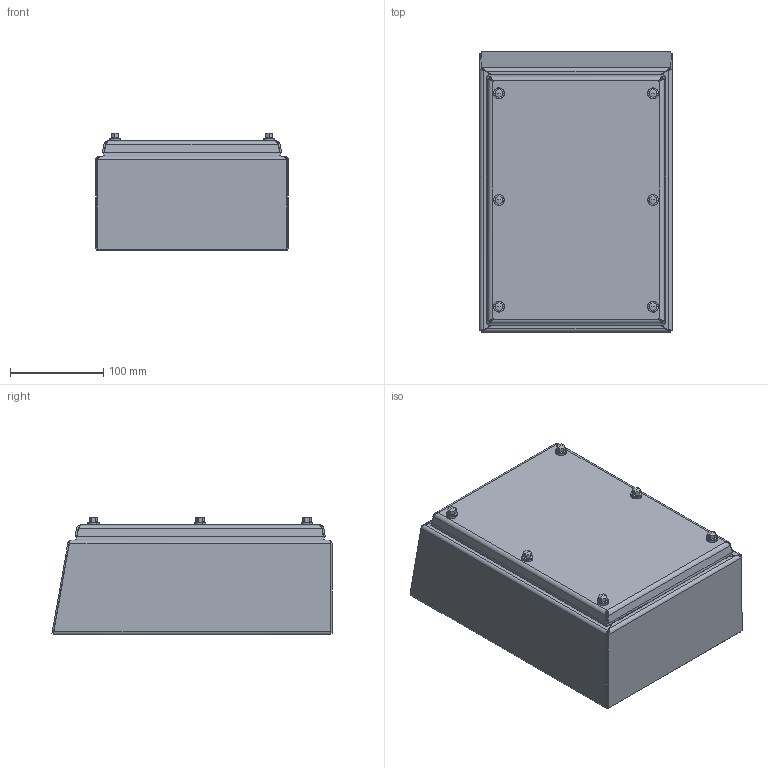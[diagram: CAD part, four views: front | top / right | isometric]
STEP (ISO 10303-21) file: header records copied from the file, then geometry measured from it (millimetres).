
FILE_DESCRIPTION (( 'STEP AP203' ), '1' );
FILE_NAME ('hsds110804ss.STEP', '2019-08-08T13:29:12', ( '' ), ( '' ), 'SwSTEP 2.0', 'SolidWorks 2016', '' );
FILE_SCHEMA (( 'CONFIG_CONTROL_DESIGN' ));
Length unit declared in the file: inch
Products named in the file (17): 89129095_Rivnut version; 89144636_96194A101; 58110002; 89154854; 54106002; 89157132; 89129078_Rivnuts; 89157251; 89129112; 89129100; 99417344; hsds110804ss; 89129106; 89129084_No flange; 89129118; 89129090_Rivnut version; 89124339
Assembly tree (41 placements, depth 4):
  hsds110804ss
    89129078_Rivnuts
      89129084_No flange
      89129090_Rivnut version
      89129095_Rivnut version
      58110002  x6
      54106002  x4
    89129100
      89129106
        89129112
        99417344  x2
      89129118
      89124339
      89144636_96194A101  x2
      89154854  x6
      89157132  x6
      89157251  x6
Bounding box: 206.38 x 300.14 x 126.41 mm (x, y, z)
Volume: 421240.3 mm3; surface area: 566025 mm2
Topology: 38 solids, 38 shells, 1067 faces, 2549 edges, 1600 vertices
Faces by surface type: plane 528, cylinder 316, cone 96, bspline 51, torus 40, sphere 36
Entity records: 19304 total; most frequent: CARTESIAN_POINT 5059, ORIENTED_EDGE 2528, DIRECTION 2264, EDGE_CURVE 1264, VERTEX_POINT 790, VECTOR 782, LINE 782, AXIS2_PLACEMENT_3D 741
